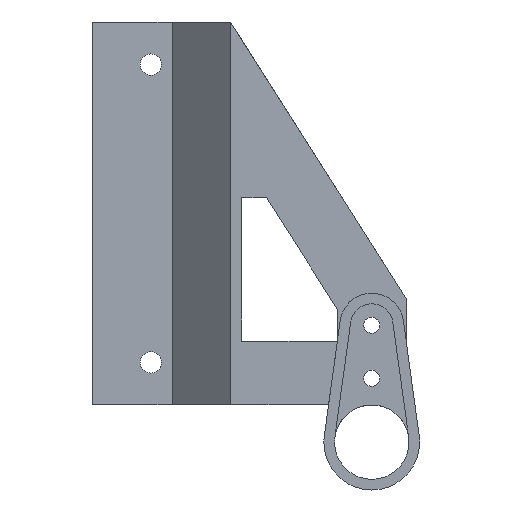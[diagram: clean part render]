
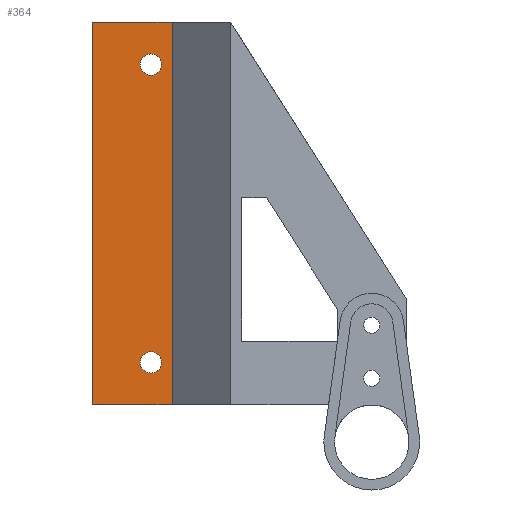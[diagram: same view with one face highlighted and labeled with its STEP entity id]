
A CAD part, left-side view. The second image highlights one B-rep face of the part: STEP entity #364.
In plain terms, the highlighted planar face has unit normal (-1, 0, 0).
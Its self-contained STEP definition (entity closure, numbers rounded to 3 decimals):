
#10 = DIRECTION ( 'NONE',  ( 0., 1., 0. ) ) ;
#34 = CARTESIAN_POINT ( 'NONE',  ( -9.5, 3.5, 14. ) ) ;
#51 = AXIS2_PLACEMENT_3D ( 'NONE', #1482, #1178, #464 ) ;
#106 = VECTOR ( 'NONE', #827, 1000. ) ;
#113 = DIRECTION ( 'NONE',  ( -1., 0., 0. ) ) ;
#131 = LINE ( 'NONE', #1796, #197 ) ;
#158 = EDGE_CURVE ( 'NONE', #769, #536, #859, .T. ) ;
#178 = ORIENTED_EDGE ( 'NONE', *, *, #158, .T. ) ;
#197 = VECTOR ( 'NONE', #719, 1000. ) ;
#204 = AXIS2_PLACEMENT_3D ( 'NONE', #1377, #228, #817 ) ;
#228 = DIRECTION ( 'NONE',  ( 1., 0., 0. ) ) ;
#236 = EDGE_CURVE ( 'NONE', #1363, #536, #1701, .T. ) ;
#273 = VECTOR ( 'NONE', #954, 1000. ) ;
#282 = CARTESIAN_POINT ( 'NONE',  ( -9.5, 5.5, 14. ) ) ;
#292 = DIRECTION ( 'NONE',  ( 1., 0., 0. ) ) ;
#324 = DIRECTION ( 'NONE',  ( 0., 1., 0. ) ) ;
#326 = VECTOR ( 'NONE', #1729, 1000. ) ;
#349 = DIRECTION ( 'NONE',  ( 1., 0., 0. ) ) ;
#364 = ADVANCED_FACE ( 'NONE', ( #573, #875, #1018 ), #595, .F. ) ;
#392 = CIRCLE ( 'NONE', #51, 1. ) ;
#427 = AXIS2_PLACEMENT_3D ( 'NONE', #1431, #113, #557 ) ;
#463 = CARTESIAN_POINT ( 'NONE',  ( -9.5, 5.5, -14. ) ) ;
#464 = DIRECTION ( 'NONE',  ( 0., 1., 0. ) ) ;
#486 = CIRCLE ( 'NONE', #576, 1. ) ;
#495 = CARTESIAN_POINT ( 'NONE',  ( -9.5, 2.5, 18. ) ) ;
#505 = CIRCLE ( 'NONE', #427, 1. ) ;
#515 = EDGE_CURVE ( 'NONE', #1281, #769, #1285, .T. ) ;
#524 = ORIENTED_EDGE ( 'NONE', *, *, #1367, .T. ) ;
#536 = VERTEX_POINT ( 'NONE', #669 ) ;
#539 = AXIS2_PLACEMENT_3D ( 'NONE', #1321, #292, #10 ) ;
#555 = EDGE_LOOP ( 'NONE', ( #1538, #635 ) ) ;
#557 = DIRECTION ( 'NONE',  ( 0., 1., 0. ) ) ;
#573 = FACE_BOUND ( 'NONE', #555, .T. ) ;
#576 = AXIS2_PLACEMENT_3D ( 'NONE', #1668, #349, #324 ) ;
#595 = PLANE ( 'NONE',  #539 ) ;
#635 = ORIENTED_EDGE ( 'NONE', *, *, #805, .F. ) ;
#657 = CARTESIAN_POINT ( 'NONE',  ( -9.5, 10., 18. ) ) ;
#669 = CARTESIAN_POINT ( 'NONE',  ( -9.5, 2.5, -18. ) ) ;
#703 = EDGE_CURVE ( 'NONE', #765, #1476, #505, .T. ) ;
#719 = DIRECTION ( 'NONE',  ( 0., -1., 0. ) ) ;
#765 = VERTEX_POINT ( 'NONE', #463 ) ;
#769 = VERTEX_POINT ( 'NONE', #1356 ) ;
#791 = CARTESIAN_POINT ( 'NONE',  ( -9.5, 10., 18. ) ) ;
#794 = ORIENTED_EDGE ( 'NONE', *, *, #1190, .F. ) ;
#805 = EDGE_CURVE ( 'NONE', #1476, #765, #392, .T. ) ;
#817 = DIRECTION ( 'NONE',  ( 0., 1., 0. ) ) ;
#827 = DIRECTION ( 'NONE',  ( 0., 0., -1. ) ) ;
#859 = LINE ( 'NONE', #871, #326 ) ;
#862 = EDGE_CURVE ( 'NONE', #1319, #1525, #486, .T. ) ;
#871 = CARTESIAN_POINT ( 'NONE',  ( -9.5, 10., -18. ) ) ;
#875 = FACE_BOUND ( 'NONE', #1160, .T. ) ;
#954 = DIRECTION ( 'NONE',  ( 0., 0., -1. ) ) ;
#991 = CARTESIAN_POINT ( 'NONE',  ( -9.5, 2.5, 18. ) ) ;
#1018 = FACE_OUTER_BOUND ( 'NONE', #1700, .T. ) ;
#1029 = ORIENTED_EDGE ( 'NONE', *, *, #862, .T. ) ;
#1160 = EDGE_LOOP ( 'NONE', ( #524, #1029 ) ) ;
#1178 = DIRECTION ( 'NONE',  ( -1., 0., 0. ) ) ;
#1190 = EDGE_CURVE ( 'NONE', #1281, #1363, #131, .T. ) ;
#1281 = VERTEX_POINT ( 'NONE', #791 ) ;
#1285 = LINE ( 'NONE', #657, #273 ) ;
#1319 = VERTEX_POINT ( 'NONE', #34 ) ;
#1321 = CARTESIAN_POINT ( 'NONE',  ( -9.5, 10., 18. ) ) ;
#1353 = ORIENTED_EDGE ( 'NONE', *, *, #515, .T. ) ;
#1356 = CARTESIAN_POINT ( 'NONE',  ( -9.5, 10., -18. ) ) ;
#1363 = VERTEX_POINT ( 'NONE', #495 ) ;
#1367 = EDGE_CURVE ( 'NONE', #1525, #1319, #1835, .T. ) ;
#1377 = CARTESIAN_POINT ( 'NONE',  ( -9.5, 4.5, 14. ) ) ;
#1411 = CARTESIAN_POINT ( 'NONE',  ( -9.5, 3.5, -14. ) ) ;
#1431 = CARTESIAN_POINT ( 'NONE',  ( -9.5, 4.5, -14. ) ) ;
#1476 = VERTEX_POINT ( 'NONE', #1411 ) ;
#1482 = CARTESIAN_POINT ( 'NONE',  ( -9.5, 4.5, -14. ) ) ;
#1525 = VERTEX_POINT ( 'NONE', #282 ) ;
#1538 = ORIENTED_EDGE ( 'NONE', *, *, #703, .F. ) ;
#1668 = CARTESIAN_POINT ( 'NONE',  ( -9.5, 4.5, 14. ) ) ;
#1700 = EDGE_LOOP ( 'NONE', ( #178, #1734, #794, #1353 ) ) ;
#1701 = LINE ( 'NONE', #991, #106 ) ;
#1729 = DIRECTION ( 'NONE',  ( 0., -1., 0. ) ) ;
#1734 = ORIENTED_EDGE ( 'NONE', *, *, #236, .F. ) ;
#1796 = CARTESIAN_POINT ( 'NONE',  ( -9.5, 10., 18. ) ) ;
#1835 = CIRCLE ( 'NONE', #204, 1. ) ;
